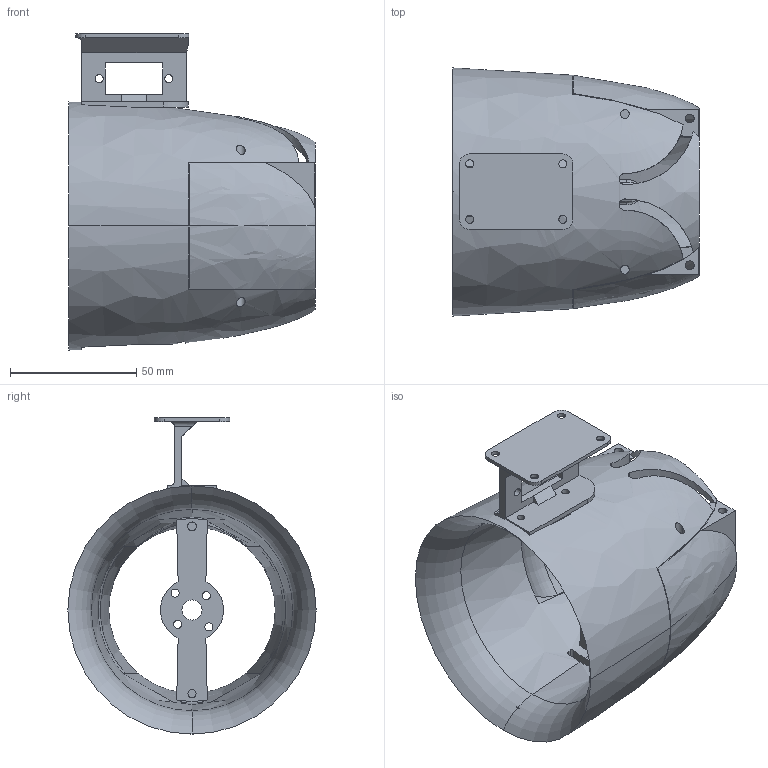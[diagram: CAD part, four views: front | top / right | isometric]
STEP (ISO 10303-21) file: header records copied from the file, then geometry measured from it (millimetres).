
FILE_DESCRIPTION (( 'STEP AP214' ), '1' );
FILE_NAME ('EDF.STEP', '2019-04-02T17:33:08', ( 'Charles' ), ( '' ), 'SwSTEP 2.0', 'SolidWorks 2016', '' );
FILE_SCHEMA (( 'AUTOMOTIVE_DESIGN' ));
Length unit declared in the file: millimetre
Products named in the file (1): EDF
Bounding box: 97.79 x 98.45 x 125.43 mm (x, y, z)
Volume: 207004.3 mm3; surface area: 74969.6 mm2
Topology: 6 solids, 6 shells, 268 faces, 695 edges, 452 vertices
Faces by surface type: plane 122, cylinder 97, bspline 20, cone 11, torus 10, sphere 8
Entity records: 10076 total; most frequent: CARTESIAN_POINT 3438, ORIENTED_EDGE 1390, DIRECTION 1317, EDGE_CURVE 695, AXIS2_PLACEMENT_3D 500, VERTEX_POINT 452, EDGE_LOOP 329, VECTOR 317
